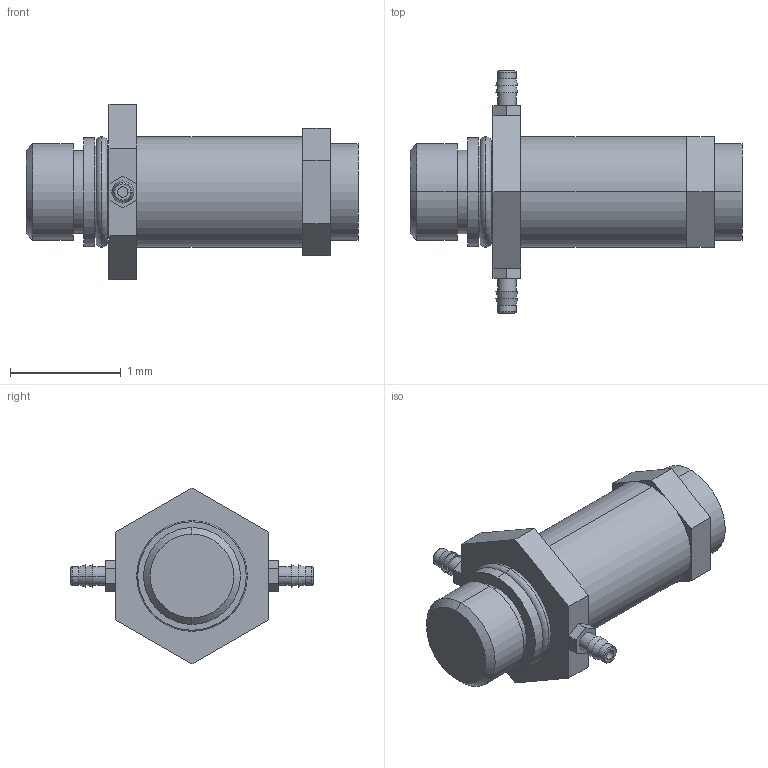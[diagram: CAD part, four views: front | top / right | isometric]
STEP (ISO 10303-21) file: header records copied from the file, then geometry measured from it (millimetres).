
FILE_DESCRIPTION((''),'2;1');
FILE_NAME('UFR2.stp','2017-11-07T11:28:14',(''),(''),'Mechanical Desktop 2011','Mechanical Desktop 2011',', , ');
FILE_SCHEMA(('CONFIG_CONTROL_DESIGN'));
Length unit declared in the file: millimetre
Products named in the file (1): Product
Bounding box: 3 x 2.19 x 1.59 mm (x, y, z)
Volume: 2.4 mm3; surface area: 19.8 mm2
Topology: 7 solids, 7 shells, 88 faces, 184 edges, 118 vertices
Faces by surface type: plane 35, bspline 23, cylinder 18, cone 6, torus 6
Entity records: 2659 total; most frequent: CARTESIAN_POINT 682, DIRECTION 394, ORIENTED_EDGE 368, EDGE_CURVE 184, AXIS2_PLACEMENT_3D 144, VERTEX_POINT 118, VECTOR 106, LINE 106
